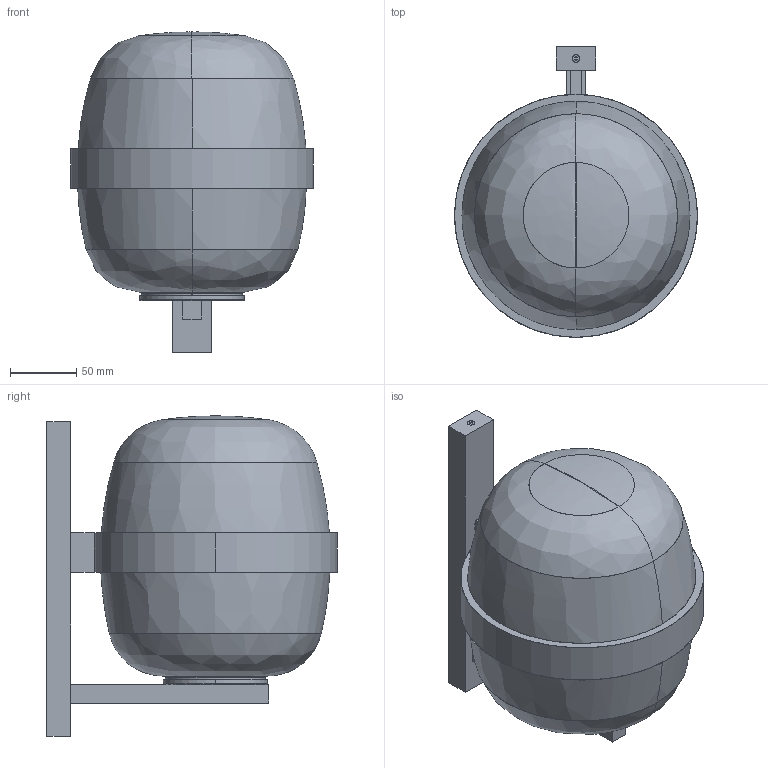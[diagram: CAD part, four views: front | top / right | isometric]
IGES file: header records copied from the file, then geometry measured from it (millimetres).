
Start section: SolidWorks IGES file using analytic representation for surfaces
Global section: file name: C:\SANTACOLE_PDM\Proyectos Catálogo\PROD-P13-077 -- APLIQUE CESTITA\6_Técnico comercial\Wally_3D.IGS; native system: SolidWorks 2016; preprocessor: SolidWorks 2016; author: GabrielG; date: 170713.180141; units: millimetre
Bounding box: 184 x 220 x 242.5 mm (x, y, z)
Surface area: 312232.2 mm2 (no closed solid volume)
Topology: 0 solids, 0 shells, 596 faces, 7055 edges, 8633 vertices
Faces by surface type: bspline 395, revolution 201
